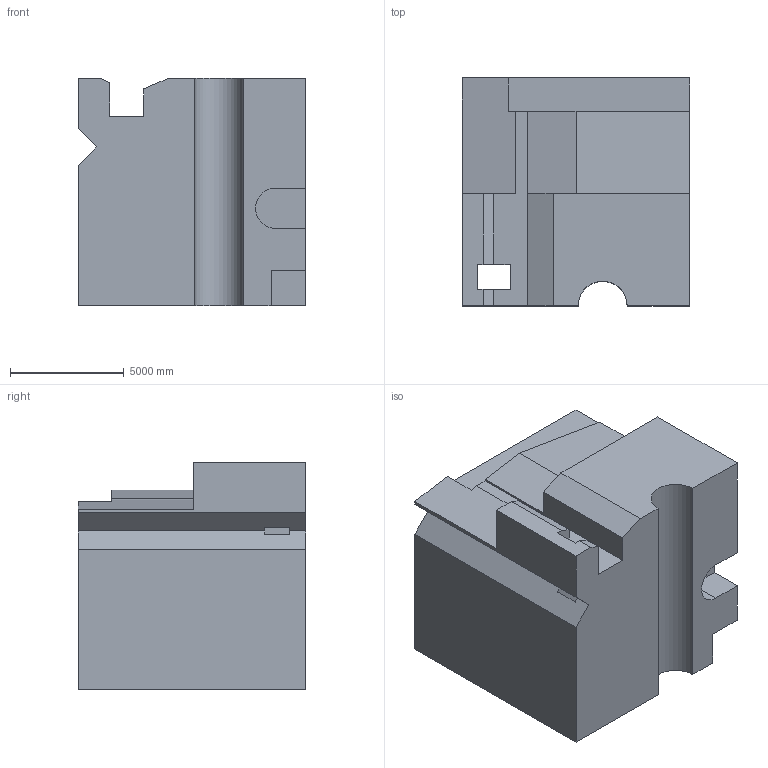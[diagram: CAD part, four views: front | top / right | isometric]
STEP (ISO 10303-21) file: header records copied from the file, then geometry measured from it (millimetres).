
FILE_DESCRIPTION (( 'STEP AP203' ), '1' );
FILE_NAME ('930.STEP', '2022-07-29T14:25:02', ( 'user' ), ( '' ), 'SwSTEP 2.0', 'SolidWorks 2021', '' );
FILE_SCHEMA (( 'CONFIG_CONTROL_DESIGN' ));
Length unit declared in the file: centimetre
Products named in the file (1): 930
Bounding box: 10000 x 10000 x 10000 mm (x, y, z)
Volume: 822291506386.8 mm3; surface area: 668886012.5 mm2
Topology: 1 solids, 1 shells, 43 faces, 132 edges, 88 vertices
Faces by surface type: plane 39, cylinder 4
Entity records: 1541 total; most frequent: CARTESIAN_POINT 264, ORIENTED_EDGE 264, DIRECTION 230, EDGE_CURVE 132, LINE 122, VECTOR 122, VERTEX_POINT 88, AXIS2_PLACEMENT_3D 54
